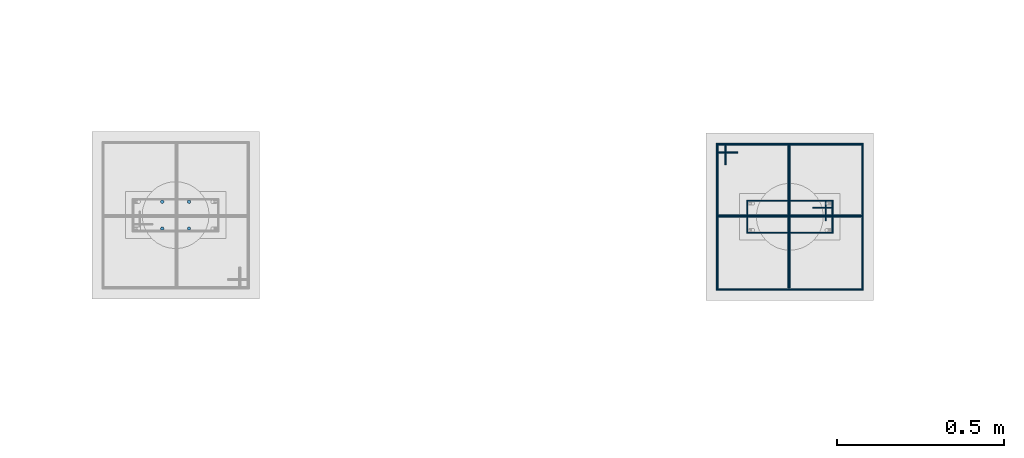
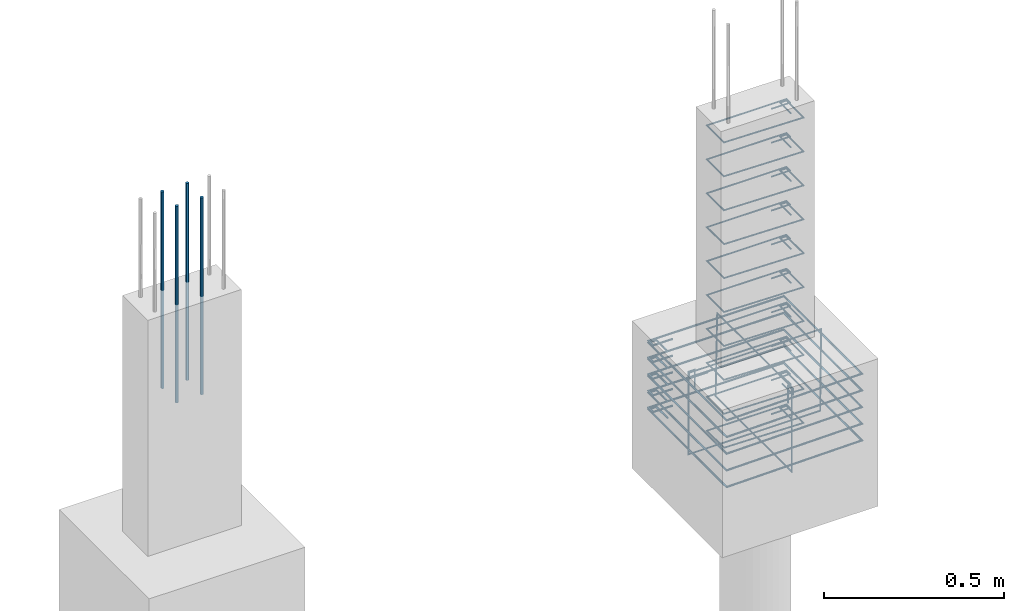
# One storey, part 94 of 119: 21 reinforcing bars.
"""IFC4 building model written with IfcOpenShell, lengths in centimetres."""

from ifc_helpers import new_model, entity, si_unit, derived_unit, frame, origin_with_axes, place, context, project, spatial, source, transform, mapped, element, save


model = new_model("IFC4")

# Units and contexts
model_context = context("Model", 3, precision=1e-05, world=origin_with_axes(), identifier="Body")
ifc_project = project(units=[si_unit("LENGTHUNIT", "METRE", prefix="CENTI"), si_unit("VOLUMEUNIT", "CUBIC_METRE"), si_unit("AREAUNIT", "SQUARE_METRE"), si_unit("POWERUNIT", "WATT"), si_unit("LUMINOUSFLUXUNIT", "LUMEN"), si_unit("ELECTRICCURRENTUNIT", "AMPERE"), si_unit("PRESSUREUNIT", "PASCAL", prefix="KILO"), si_unit("MASSUNIT", "GRAM", prefix="KILO"), si_unit("PLANEANGLEUNIT", "RADIAN"), derived_unit("VOLUMETRICFLOWRATEUNIT", [(si_unit("LENGTHUNIT", "METRE"), 3), (si_unit("TIMEUNIT", "SECOND"), -1)])], contexts=[model_context])

# Site, building, storey
site_placement = place(None, frame((-4000.0, 0.0, 0.0), z_axis=(0.0, 0.0, 1.0), x_axis=(1.0, 0.0, 0.0)))
site = spatial("IfcSite", under=ifc_project, at=site_placement, Name="PADRÃO")
building_placement = place(site_placement, frame((0.0, 0.0, -14.0)))
building = spatial("IfcBuilding", under=site, at=building_placement, Name="CRECHE PRÉ-ESCOLA TIPO 2")
storey_placement = place(building_placement, origin_with_axes())
storey = spatial("IfcBuildingStorey", under=building, at=storey_placement, Name="FUNDAÇÃO", CompositionType="ELEMENT", Elevation=-14.0)

# Reinforcing bars
shared_shape_1 = source(origin_with_axes(), model_context, "Body", "AdvancedSweptSolid", [
    entity("IfcSweptDiskSolid", entity("IfcCompositeCurve", [entity("IfcCompositeCurveSegment", "CONTINUOUS", True, entity("IfcPolyline", [entity("IfcCartesianPoint", [4.25, 21.75, 0.0]), entity("IfcCartesianPoint", [4.25, 27.75, 0.0])])), entity("IfcCompositeCurveSegment", "CONTINUOUS", True, entity("IfcPolyline", [entity("IfcCartesianPoint", [4.25, 27.75, 0.0]), entity("IfcCartesianPoint", [2.25, 27.75, 0.0])])), entity("IfcCompositeCurveSegment", "CONTINUOUS", True, entity("IfcPolyline", [entity("IfcCartesianPoint", [2.25, 27.75, 0.0]), entity("IfcCartesianPoint", [2.25, 2.25, 0.0])])), entity("IfcCompositeCurveSegment", "CONTINUOUS", True, entity("IfcPolyline", [entity("IfcCartesianPoint", [2.25, 2.25, 0.0]), entity("IfcCartesianPoint", [11.75, 2.25, 0.0])])), entity("IfcCompositeCurveSegment", "CONTINUOUS", True, entity("IfcPolyline", [entity("IfcCartesianPoint", [11.75, 2.25, 0.0]), entity("IfcCartesianPoint", [11.75, 27.75, -0.5])])), entity("IfcCompositeCurveSegment", "CONTINUOUS", True, entity("IfcPolyline", [entity("IfcCartesianPoint", [11.75, 27.75, -0.5]), entity("IfcCartesianPoint", [2.25, 27.75, -0.5])])), entity("IfcCompositeCurveSegment", "CONTINUOUS", True, entity("IfcPolyline", [entity("IfcCartesianPoint", [2.25, 27.75, -0.5]), entity("IfcCartesianPoint", [2.25, 25.75, -0.5])])), entity("IfcCompositeCurveSegment", "CONTINUOUS", True, entity("IfcPolyline", [entity("IfcCartesianPoint", [2.25, 25.75, -0.5]), entity("IfcCartesianPoint", [8.25, 25.75, -0.5])]))], False), 0.25),
])
for number, where, z_axis, x_axis, name in (
    (1, (3541.0, 521.52, -51.75), (0.0, 0.0, 1.0), (0.0, -1.0, 0.0), "P141 - Estribo"),
    (2, (3541.0, 521.52, -5.75), (0.0, 0.0, 1.0), (0.0, -1.0, 0.0), "P141 - Estribo"),
    (3, (3541.0, 521.52, -97.75), (0.0, 0.0, 1.0), (0.0, -1.0, 0.0), "P141 - Estribo"),
    (4, (3541.0, 521.52, -109.25), (0.0, 0.0, 1.0), (0.0, -1.0, 0.0), "P141 - Estribo"),
    (5, (3541.0, 521.52, -40.25), (0.0, 0.0, 1.0), (0.0, -1.0, 0.0), "P141 - Estribo"),
    (6, (3541.0, 521.52, -17.25), (0.0, 0.0, 1.0), (0.0, -1.0, 0.0), "P141 - Estribo"),
    (7, (3541.0, 521.52, -28.75), (0.0, 0.0, 1.0), (0.0, -1.0, 0.0), "P141 - Estribo"),
    (8, (3541.0, 521.52, -86.25), (0.0, 0.0, 1.0), (0.0, -1.0, 0.0), "P141 - Estribo"),
    (9, (3541.0, 521.52, -74.75), (0.0, 0.0, 1.0), (0.0, -1.0, 0.0), "P141 - Estribo"),
    (10, (3541.0, 521.52, -63.25), (0.0, 0.0, 1.0), (0.0, -1.0, 0.0), "P141 - Estribo"),
):
    element("IfcReinforcingBar", number, at=place(storey_placement, frame(where, z_axis=z_axis, x_axis=x_axis)), inside=storey, Name=name, BarLength=0.0, CrossSectionArea=1.9634954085e-05, NominalDiameter=0.5, PredefinedType="MAIN", context=model_context, shape_type="MappedRepresentation", body=[
        mapped(shared_shape_1, transform((0.0, 0.0, 0.0), scale=1.0)),
    ])
shared_shape_2 = source(origin_with_axes(), model_context, "Body", "AdvancedSweptSolid", [
    entity("IfcSweptDiskSolid", entity("IfcCompositeCurve", [entity("IfcCompositeCurveSegment", "CONTINUOUS", True, entity("IfcPolyline", [entity("IfcCartesianPoint", [3536.835, 529.945, 0.0]), entity("IfcCartesianPoint", [3536.835, 536.205, 0.0])])), entity("IfcCompositeCurveSegment", "CONTINUOUS", True, entity("IfcPolyline", [entity("IfcCartesianPoint", [3536.835, 536.205, 0.0]), entity("IfcCartesianPoint", [3534.315, 536.205, 0.0])])), entity("IfcCompositeCurveSegment", "CONTINUOUS", True, entity("IfcPolyline", [entity("IfcCartesianPoint", [3534.315, 536.205, 0.0]), entity("IfcCartesianPoint", [3534.315, 492.835, 0.0])])), entity("IfcCompositeCurveSegment", "CONTINUOUS", True, entity("IfcPolyline", [entity("IfcCartesianPoint", [3534.315, 492.835, 0.0]), entity("IfcCartesianPoint", [3577.685, 492.835, 0.63])])), entity("IfcCompositeCurveSegment", "CONTINUOUS", True, entity("IfcPolyline", [entity("IfcCartesianPoint", [3577.685, 492.835, 0.63]), entity("IfcCartesianPoint", [3577.685, 536.205, 0.63])])), entity("IfcCompositeCurveSegment", "CONTINUOUS", True, entity("IfcPolyline", [entity("IfcCartesianPoint", [3577.685, 536.205, 0.63]), entity("IfcCartesianPoint", [3534.315, 536.205, 0.63])])), entity("IfcCompositeCurveSegment", "CONTINUOUS", True, entity("IfcPolyline", [entity("IfcCartesianPoint", [3534.315, 536.205, 0.63]), entity("IfcCartesianPoint", [3534.315, 533.685, 0.63])])), entity("IfcCompositeCurveSegment", "CONTINUOUS", True, entity("IfcPolyline", [entity("IfcCartesianPoint", [3534.315, 533.685, 0.63]), entity("IfcCartesianPoint", [3540.575, 533.685, 0.63])]))], False), 0.315),
])
for number, where, z_axis, x_axis, name in (
    (11, (0.0, 0.0, -109.175), (0.0, 0.0, 1.0), (1.0, 0.0, 0.0), "P141 - Blocos (estribos)"),
    (12, (0.0, 0.0, -103.525), (0.0, 0.0, 1.0), (1.0, 0.0, 0.0), "P141 - Blocos (estribos)"),
    (13, (0.0, 0.0, -97.875), (0.0, 0.0, 1.0), (1.0, 0.0, 0.0), "P141 - Blocos (estribos)"),
    (14, (0.0, 0.0, -92.225), (0.0, 0.0, 1.0), (1.0, 0.0, 0.0), "P141 - Blocos (estribos)"),
    (15, (0.0, 0.0, -86.575), (0.0, 0.0, 1.0), (1.0, 0.0, 0.0), "P141 - Blocos (estribos)"),
):
    element("IfcReinforcingBar", number, at=place(storey_placement, frame(where, z_axis=z_axis, x_axis=x_axis)), inside=storey, Name=name, BarLength=0.0, CrossSectionArea=3.1172453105e-05, NominalDiameter=0.63, PredefinedType="MAIN", context=model_context, shape_type="MappedRepresentation", body=[
        mapped(shared_shape_2, transform((0.0, 0.0, 0.0), scale=1.0)),
    ])
shared_shape_3 = source(origin_with_axes(), model_context, "Body", "AdvancedSweptSolid", [
    entity("IfcSweptDiskSolid", entity("IfcCompositeCurve", [entity("IfcCompositeCurveSegment", "CONTINUOUS", True, entity("IfcPolyline", [entity("IfcCartesianPoint", [-15.12, -12.0, 0.0]), entity("IfcCartesianPoint", [-21.12, -12.0, 0.0])])), entity("IfcCompositeCurveSegment", "CONTINUOUS", True, entity("IfcPolyline", [entity("IfcCartesianPoint", [-21.12, -12.0, 0.0]), entity("IfcCartesianPoint", [-21.12, -14.0, 0.0])])), entity("IfcCompositeCurveSegment", "CONTINUOUS", True, entity("IfcPolyline", [entity("IfcCartesianPoint", [-21.12, -14.0, 0.0]), entity("IfcCartesianPoint", [21.12, -14.0, 0.0])])), entity("IfcCompositeCurveSegment", "CONTINUOUS", True, entity("IfcPolyline", [entity("IfcCartesianPoint", [21.12, -14.0, 0.0]), entity("IfcCartesianPoint", [21.12, 14.0, 0.5])])), entity("IfcCompositeCurveSegment", "CONTINUOUS", True, entity("IfcPolyline", [entity("IfcCartesianPoint", [21.12, 14.0, 0.5]), entity("IfcCartesianPoint", [-21.12, 14.0, 0.5])])), entity("IfcCompositeCurveSegment", "CONTINUOUS", True, entity("IfcPolyline", [entity("IfcCartesianPoint", [-21.12, 14.0, 0.5]), entity("IfcCartesianPoint", [-21.12, -14.0, 0.5])])), entity("IfcCompositeCurveSegment", "CONTINUOUS", True, entity("IfcPolyline", [entity("IfcCartesianPoint", [-21.12, -14.0, 0.5]), entity("IfcCartesianPoint", [-19.12, -14.0, 0.5])])), entity("IfcCompositeCurveSegment", "CONTINUOUS", True, entity("IfcPolyline", [entity("IfcCartesianPoint", [-19.12, -14.0, 0.5]), entity("IfcCartesianPoint", [-19.12, -8.0, 0.5])]))], False), 0.25),
])
reinforcing_bar_1_placement = place(storey_placement, frame((3556.0, 514.52, -97.75), z_axis=(0.0, 1.0, 0.0), x_axis=(1.0, 0.0, 0.0)))
element("IfcReinforcingBar", 16, at=reinforcing_bar_1_placement, inside=storey, Name="P141 - Blocos (estribos)", BarLength=0.0, CrossSectionArea=1.9634954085e-05, NominalDiameter=0.5, PredefinedType="MAIN", context=model_context, shape_type="MappedRepresentation", body=[
    mapped(shared_shape_3, transform((0.0, 0.0, 0.0), scale=1.0)),
])
shared_shape_4 = source(origin_with_axes(), model_context, "Body", "AdvancedSweptSolid", [
    entity("IfcSweptDiskSolid", entity("IfcCompositeCurve", [entity("IfcCompositeCurveSegment", "CONTINUOUS", True, entity("IfcPolyline", [entity("IfcCartesianPoint", [-15.12, -12.0, 0.0]), entity("IfcCartesianPoint", [-21.12, -12.0, 0.0])])), entity("IfcCompositeCurveSegment", "CONTINUOUS", True, entity("IfcPolyline", [entity("IfcCartesianPoint", [-21.12, -12.0, 0.0]), entity("IfcCartesianPoint", [-21.12, -14.0, 0.0])])), entity("IfcCompositeCurveSegment", "CONTINUOUS", True, entity("IfcPolyline", [entity("IfcCartesianPoint", [-21.12, -14.0, 0.0]), entity("IfcCartesianPoint", [21.12, -14.0, 0.0])])), entity("IfcCompositeCurveSegment", "CONTINUOUS", True, entity("IfcPolyline", [entity("IfcCartesianPoint", [21.12, -14.0, 0.0]), entity("IfcCartesianPoint", [21.12, 14.0, 0.5])])), entity("IfcCompositeCurveSegment", "CONTINUOUS", True, entity("IfcPolyline", [entity("IfcCartesianPoint", [21.12, 14.0, 0.5]), entity("IfcCartesianPoint", [-21.12, 14.0, 0.5])])), entity("IfcCompositeCurveSegment", "CONTINUOUS", True, entity("IfcPolyline", [entity("IfcCartesianPoint", [-21.12, 14.0, 0.5]), entity("IfcCartesianPoint", [-21.12, -14.0, 0.5])])), entity("IfcCompositeCurveSegment", "CONTINUOUS", True, entity("IfcPolyline", [entity("IfcCartesianPoint", [-21.12, -14.0, 0.5]), entity("IfcCartesianPoint", [-19.12, -14.0, 0.5])])), entity("IfcCompositeCurveSegment", "CONTINUOUS", True, entity("IfcPolyline", [entity("IfcCartesianPoint", [-19.12, -14.0, 0.5]), entity("IfcCartesianPoint", [-19.12, -8.0, 0.5])]))], False), 0.25),
])
reinforcing_bar_2_placement = place(storey_placement, frame((3556.0, 514.52, -97.75), z_axis=(-1.0, 0.0, 0.0), x_axis=(0.0, 1.0, 0.0)))
element("IfcReinforcingBar", 17, at=reinforcing_bar_2_placement, inside=storey, Name="P141 - Blocos (estribos)", BarLength=0.0, CrossSectionArea=1.9634954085e-05, NominalDiameter=0.5, PredefinedType="MAIN", context=model_context, shape_type="MappedRepresentation", body=[
    mapped(shared_shape_4, transform((0.0, 0.0, 0.0), scale=1.0)),
])
for number, where, z_axis, x_axis, name in (
    (18, (3376.5, 519.01, 33.3573001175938), (0.0, 0.0, 1.0), (1.0, 0.0, 0.0), "P140 - Longitudinal"),
    (19, (3376.5, 511.01, 33.3573001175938), (0.0, 0.0, 1.0), (1.0, 0.0, 0.0), "P140 - Longitudinal"),
    (20, (3368.5, 511.01, 33.3573001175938), (0.0, 0.0, 1.0), (1.0, 0.0, 0.0), "P140 - Longitudinal"),
    (21, (3368.5, 519.01, 33.3573001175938), (0.0, 0.0, 1.0), (1.0, 0.0, 0.0), "P140 - Longitudinal"),
):
    element("IfcReinforcingBar", number, at=place(storey_placement, frame(where, z_axis=z_axis, x_axis=x_axis)), inside=storey, Name=name, BarLength=0.0, CrossSectionArea=7.853981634e-05, NominalDiameter=1.0, PredefinedType="MAIN", context=model_context, shape_type="AdvancedSweptSolid", body=[
        entity("IfcSweptDiskSolid", entity("IfcCompositeCurve", [entity("IfcCompositeCurveSegment", "CONTINUOUS", True, entity("IfcPolyline", [entity("IfcCartesianPoint", [0.0, 0.0, -66.7146002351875]), entity("IfcCartesianPoint", [0.0, 0.0, 0.0])]))], False), 0.5),
    ])

save(model, "model.ifc")
